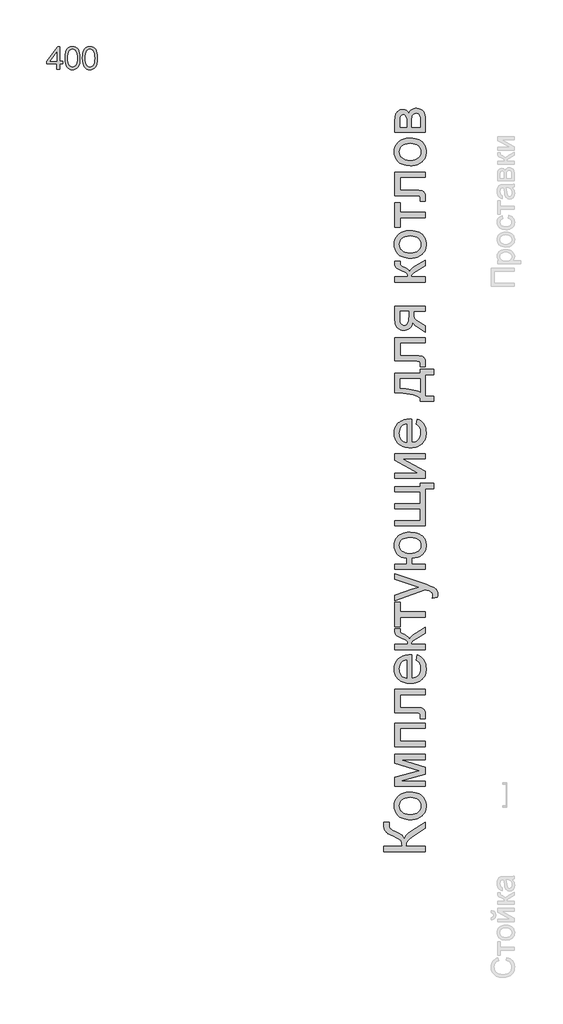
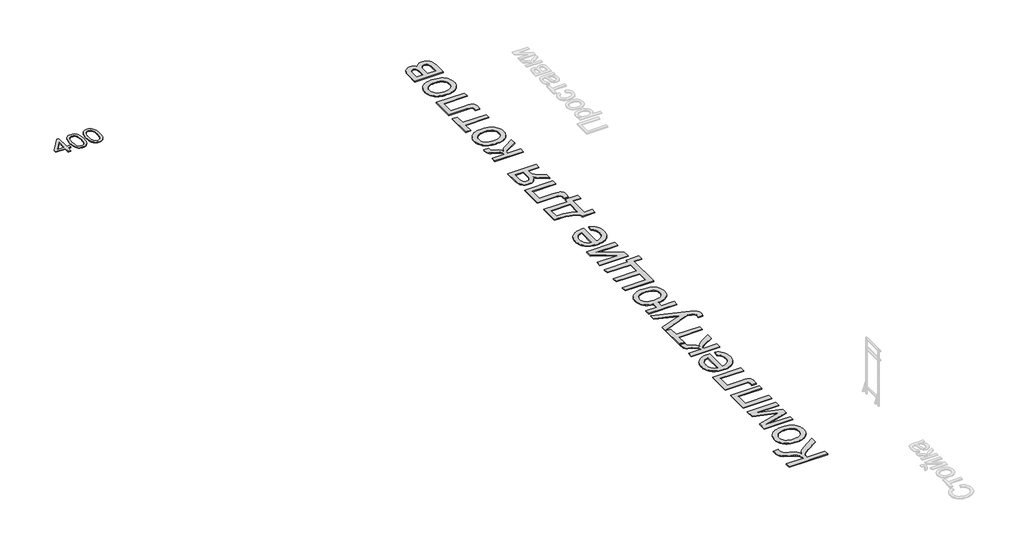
# One storey, part 7 of 8: 2 proxies.
"""IFC4 building model written with IfcOpenShell, lengths in millimetres."""

import ifcopenshell
import ifcopenshell.guid

model = None  # the IFC model being written
_history = None  # IfcOwnerHistory: only IFC2X3 demands one
_inside = {}  # id of a spatial element -> (the spatial element, [elements in it])
_under = {}  # id of a project, library or spatial element -> (it, [spatial elements below it])
_declared = {}  # id of a project -> (the project, [libraries it declares])
_typed = {}  # id of a type object -> (the type object, [elements of that type])
_made_of = {}  # id of a material, layer set ... -> (it, [elements and type objects made of it])


def new_model(schema):
    """Start an empty IFC model of exactly this schema.

    Asked for "IFC4X3", IfcOpenShell would pick the latest addendum, in which some entities
    have other attributes; the version numbers below select the first issue.
    IFC2X3 requires an IfcOwnerHistory on every rooted entity: one is made here for all.
    """
    global model, _history
    if schema == "IFC4X3":
        model = ifcopenshell.file(schema_version=(4, 3, 0, 0))
    else:
        model = ifcopenshell.file(schema=schema)
    _inside.clear()
    _under.clear()
    _declared.clear()
    _typed.clear()
    _made_of.clear()
    _history = None
    if model.schema == "IFC2X3":
        org = make("IfcOrganization", Name="unknown")
        user = make(
            "IfcPersonAndOrganization",
            ThePerson=make("IfcPerson", FamilyName="unknown"),
            TheOrganization=org,
        )
        app = make(
            "IfcApplication",
            ApplicationDeveloper=org,
            Version="unknown",
            ApplicationFullName="unknown",
            ApplicationIdentifier="unknown",
        )
        _history = make(
            "IfcOwnerHistory",
            OwningUser=user,
            OwningApplication=app,
            ChangeAction="ADDED",
            CreationDate=0,
        )
    return model


def make(cls, **values):
    """One entity of the class cls with the attributes given. An attribute that is None is left unset."""
    return model.create_entity(
        cls, **{name: value for name, value in values.items() if value is not None}
    )


def rooted(cls, **values):
    """An entity with a GlobalId (a new one), such as an element, a storey or a relation."""
    return make(cls, GlobalId=ifcopenshell.guid.new(), OwnerHistory=_history, **values)


def si_unit(unit_type, name, prefix=None):
    """IfcSIUnit, for example si_unit("LENGTHUNIT", "METRE", prefix="MILLI")."""
    return make("IfcSIUnit", UnitType=unit_type, Prefix=prefix, Name=name)


def assignment(units):
    """IfcUnitAssignment: the units of a project."""
    return None if units is None else make("IfcUnitAssignment", Units=units)


def point(xyz):
    """IfcCartesianPoint."""
    return None if xyz is None else make("IfcCartesianPoint", Coordinates=xyz)


def direction(xyz):
    """IfcDirection."""
    return None if xyz is None else make("IfcDirection", DirectionRatios=xyz)


def frame(location, z_axis=None, x_axis=None):
    """IfcAxis2Placement3D, a coordinate frame: its origin and axes. An axis left out is left unset."""
    return make(
        "IfcAxis2Placement3D",
        Location=point(location),
        Axis=direction(z_axis),
        RefDirection=direction(x_axis),
    )


def origin():
    """The frame at (0, 0, 0) with its axes left unset."""
    return frame((0.0, 0.0, 0.0))


def origin_with_axes():
    """The frame at (0, 0, 0) with the z axis (0, 0, 1) and the x axis (1, 0, 0) written out."""
    return frame((0.0, 0.0, 0.0), z_axis=(0.0, 0.0, 1.0), x_axis=(1.0, 0.0, 0.0))


def place(relative_to, where):
    """IfcLocalPlacement: puts the frame where relative to a parent placement (None: the world)."""
    return make(
        "IfcLocalPlacement", PlacementRelTo=relative_to, RelativePlacement=where
    )


def context(
    kind, dimensions, precision=None, world=None, true_north=None, identifier=None
):
    """IfcGeometricRepresentationContext, for example the 3D "Model" context."""
    return make(
        "IfcGeometricRepresentationContext",
        ContextIdentifier=identifier,
        ContextType=kind,
        CoordinateSpaceDimension=dimensions,
        Precision=precision,
        WorldCoordinateSystem=world,
        TrueNorth=true_north,
    )


def project(units=None, contexts=None):
    """IfcProject with its units and contexts."""
    return rooted(
        "IfcProject",
        Name="project",
        RepresentationContexts=contexts,
        UnitsInContext=assignment(units),
    )


def spatial(cls, under=None, at=None, **own):
    """A site, building, storey or space (cls), placed at a placement, below another one or the project."""
    s = rooted(cls, ObjectPlacement=at, **own)
    if under is not None:
        _under.setdefault(under.id(), (under, []))[1].append(s)
    return s


def polyline(points):
    """IfcPolyline through the points."""
    return make("IfcPolyline", Points=[point(p) for p in points])


def outline(outer, holes=None, kind="AREA"):
    """IfcArbitraryClosedProfileDef: a profile drawn as a closed curve; with holes, ...WithVoids."""
    if holes is None:
        return make("IfcArbitraryClosedProfileDef", ProfileType=kind, OuterCurve=outer)
    return make(
        "IfcArbitraryProfileDefWithVoids",
        ProfileType=kind,
        OuterCurve=outer,
        InnerCurves=holes,
    )


def extrude(swept, where, along, depth):
    """IfcExtrudedAreaSolid: the profile swept, set in the frame where, extruded along a direction by depth."""
    return make(
        "IfcExtrudedAreaSolid",
        SweptArea=swept,
        Position=where,
        ExtrudedDirection=direction(along),
        Depth=depth,
    )


def shape(context_of_items, identifier, shape_type, items):
    """IfcShapeRepresentation: the items that make up one representation, for example the "Body"."""
    return make(
        "IfcShapeRepresentation",
        ContextOfItems=context_of_items,
        RepresentationIdentifier=identifier,
        RepresentationType=shape_type,
        Items=items,
    )


def made_of(thing, what):
    """Note that an element or type object is made of a material, layer set ...; save() writes the relation."""
    if what is not None:
        _made_of.setdefault(what.id(), (what, []))[1].append(thing)
    return thing


def element(
    cls,
    number,
    at=None,
    inside=None,
    cuts=None,
    type_object=None,
    material=None,
    context=None,
    identifier="Body",
    shape_type=None,
    held_by="IfcProductDefinitionShape",
    body=None,
    shapes=None,
    **own,
):
    """One element of the class cls, such as IfcWall. Its Tag is "e" and its number.

    at: its placement. inside: the storey or other place that contains it. cuts: it is an
    opening in that element (IfcRelVoidsElement). A single representation is given by context,
    identifier, shape_type and body (its items); several are given by shapes. held_by: the class
    of the entity that holds the representations. save() writes the other relations.
    """
    e = rooted(cls, Tag="e%d" % number, ObjectPlacement=at, **own)
    if body is not None:
        shapes = [shape(context, identifier, shape_type, body)]
    if shapes is not None:
        e.Representation = make(held_by, Representations=shapes)
    if inside is not None:
        _inside.setdefault(inside.id(), (inside, []))[1].append(e)
    if cuts is not None:
        rooted(
            "IfcRelVoidsElement", RelatingBuildingElement=cuts, RelatedOpeningElement=e
        )
    if type_object is not None:
        _typed.setdefault(type_object.id(), (type_object, []))[1].append(e)
    return made_of(e, material)


def aggregate(whole, parts):
    """IfcRelAggregates: a whole, such as a stair, and the parts it consists of."""
    return rooted("IfcRelAggregates", RelatingObject=whole, RelatedObjects=parts)


def save(model, path):
    """Write the relations noted so far, then the file.

    IfcRelAggregates (storeys below a building ...), IfcRelContainedInSpatialStructure (elements
    in a storey), IfcRelDefinesByType, IfcRelAssociatesMaterial and IfcRelDeclares: one each for
    every whole, place, type object, material and project.
    """
    for whole, parts in _under.values():
        aggregate(whole, parts)
    for where, things in _inside.values():
        rooted(
            "IfcRelContainedInSpatialStructure",
            RelatedElements=things,
            RelatingStructure=where,
        )
    for kind, things in _typed.values():
        rooted("IfcRelDefinesByType", RelatedObjects=things, RelatingType=kind)
    for what, things in _made_of.values():
        rooted("IfcRelAssociatesMaterial", RelatedObjects=things, RelatingMaterial=what)
    for by, libraries in _declared.values():
        rooted("IfcRelDeclares", RelatingContext=by, RelatedDefinitions=libraries)
    model.write(path)


model = new_model("IFC4")

# Units and contexts
model_context = context("Model", 3, world=origin())
ifc_project = project(units=[si_unit("LENGTHUNIT", "METRE", prefix="MILLI")], contexts=[model_context])

# Site, building, storey
site = spatial("IfcSite", under=ifc_project)
building = spatial("IfcBuilding", under=site)
storey = spatial("IfcBuildingStorey", under=building, Name="Этаж 01", Elevation=0.0)

# Proxies
placement = place(None, origin())
element("IfcBuildingElementProxy", 1, Name="1100 мм Arial", ObjectType="1100 мм Arial", at=placement, inside=storey, context=model_context, shape_type="SweptSolid", body=[
    extrude(outline(polyline([(21849.068676, -24412.8747268), (21849.068676, -24274.8503805), (22332.153888, -24274.8503805), (22329.8708925, -24224.0600495), (22323.0219061, -24181.4076285), (22311.6069287, -24146.8931176), (22295.6259604, -24120.5165167), (22270.3782208, -24097.0547367), (22231.1629295, -24071.2846881), (22177.9800866, -24043.2063711), (22110.8296921, -24012.8197856), (22017.7913083, -23970.8665846), (21956.4958283, -23936.6637742), (21934.6852184, -23919.8993425), (21914.6774168, -23899.9336625), (21896.4724233, -23876.7667343), (21880.0702381, -23850.3985578), (21866.5070547, -23821.7136885), (21856.8190665, -23791.5966817), (21851.0062736, -23760.0475376), (21849.068676, -23727.0662562), (21850.6861488, -23636.4877789), (21988.7104951, -23636.4877789), (21987.9017587, -23666.9501835), (21987.0930223, -23697.412588), (21989.1654093, -23731.3458196), (21995.3825704, -23760.6288169), (22005.7445056, -23785.2615799), (22020.2512148, -23805.2441086), (22041.6658809, -23823.8113485), (22072.4821076, -23843.6590877), (22162.3192431, -23887.1960642), (22224.5919462, -23915.0384997), (22274.1944457, -23940.6063642), (22311.1267415, -23963.8996575), (22335.3888336, -23984.9183797), (22367.6035004, -24028.6238428), (22392.5395395, -24080.2144859), (22401.7978864, -24053.437729), (22415.2852508, -24026.7536399), (22433.0016327, -24000.1622184), (22454.947032, -23973.6634647), (22511.5248829, -23920.9439604), (22585.0188036, -23868.5951269), (22953.2634463, -23636.4877789), (22953.2634463, -23796.6175869), (22642.1695095, -23992.8709543), (22542.3916557, -24068.6562948), (22506.4281587, -24101.5196356), (22479.7482817, -24131.03009), (22460.4649731, -24160.8943666), (22446.6911812, -24194.8191738), (22438.4269061, -24232.8045118), (22435.6721477, -24274.8503805), (22953.2634463, -24274.8503805), (22953.2634463, -24412.8747268), (21849.068676, -24412.8747268)])), origin_with_axes(), (0.0, 0.0, 1.0), 20.0),
    extrude(outline(polyline([(22547.8169291, -23567.4756058), (22493.4925884, -23565.609615), (22442.7991373, -23560.0116427), (22395.7365756, -23550.6816889), (22352.3049034, -23537.6197535), (22312.5041207, -23520.8258366), (22276.3342274, -23500.2999382), (22243.7952237, -23476.0420583), (22214.8871094, -23448.0521968), (22175.6128478, -23395.4506332), (22147.5598038, -23337.3900988), (22130.7279774, -23273.8705938), (22125.1173685, -23204.892118), (22126.825403, -23165.9063899), (22131.9495063, -23128.7445309), (22140.4896785, -23093.406541), (22152.4459195, -23059.8924202), (22167.8182295, -23028.2021685), (22186.6066083, -22998.3357858), (22208.8110559, -22970.2932722), (22234.4315725, -22944.0746277), (22263.0637897, -22920.3495871), (22294.3033394, -22899.7878852), (22328.1502216, -22882.3895221), (22364.6044362, -22868.1544977), (22403.6659833, -22857.0828121), (22445.3348629, -22849.1744653), (22489.6110749, -22844.4294571), (22536.4946194, -22842.8477878), (22610.3760596, -22845.6446678), (22675.9342544, -22854.035308), (22733.1692036, -22868.0197083), (22782.0809074, -22887.5978688), (22824.3289602, -22912.5254836), (22861.5729565, -22942.5582469), (22893.8128962, -22977.6961588), (22921.0487795, -23017.9392192), (22942.6909027, -23061.7205014), (22958.149562, -23107.4730786), (22967.4247577, -23155.1969508), (22970.5164896, -23204.892118), (22968.8147734, -23244.4928227), (22963.7096248, -23282.1517176), (22955.2010439, -23317.8688027), (22943.2890306, -23351.644078), (22927.973585, -23383.4775434), (22909.254707, -23413.3691991), (22887.1323966, -23441.319045), (22861.6066538, -23467.3270811), (22832.8796628, -23490.7993916), (22801.1536076, -23511.1420606), (22766.4284883, -23528.3550883), (22728.7043048, -23542.4384746), (22687.9810571, -23553.3922195), (22644.2587452, -23561.216323), (22597.5373692, -23565.9107851), (22547.8169291, -23567.4756058)]), holes=[polyline([(22547.5473503, -23429.4512595), (22614.4955607, -23425.4581235), (22672.4634273, -23413.4787155), (22721.4509501, -23393.5130355), (22761.4581291, -23365.5610836), (22792.5355103, -23331.5604573), (22814.7336397, -23293.4487542), (22828.0525174, -23251.2259745), (22832.4921433, -23204.892118), (22828.0272444, -23158.7941429), (22814.6325477, -23116.7398499), (22792.3080532, -23078.7292389), (22761.0537609, -23044.76231), (22720.6506381, -23016.810358), (22670.8796519, -22996.844678), (22611.7408023, -22984.8652701), (22543.2340894, -22980.8721341), (22478.408812, -22984.8905431), (22421.9573262, -22996.9457701), (22373.8796318, -23017.0378151), (22334.175729, -23045.1666782), (22303.0983478, -23079.2599722), (22280.9002184, -23117.2453102), (22267.5813407, -23159.1226921), (22263.1417148, -23204.892118), (22267.564492, -23251.2259745), (22280.8328237, -23293.4487542), (22302.9467097, -23331.5604573), (22333.9061502, -23365.5610836), (22373.7953884, -23393.5130355), (22422.6986679, -23413.4787155), (22480.6159885, -23425.4581235), (22547.5473503, -23429.4512595)])]), origin_with_axes(), (0.0, 0.0, 1.0), 20.0),
    extrude(outline(polyline([(22142.3704118, -22687.5703982), (22142.3704118, -22450.0714742), (22791.5161655, -22267.0274681), (22142.3704118, -22069.6957855), (22142.3704118, -21842.1712772), (22953.2634463, -21842.1712772), (22953.2634463, -21980.1956235), (22300.3435894, -21980.1956235), (22953.2634463, -22178.6056213), (22953.2634463, -22359.7625758), (22269.0724485, -22549.5460519), (22953.2634463, -22549.5460519), (22953.2634463, -22687.5703982), (22142.3704118, -22687.5703982)])), origin_with_axes(), (0.0, 0.0, 1.0), 20.0),
    extrude(outline(polyline([(22142.3704118, -21635.1347578), (22142.3704118, -21014.0251995), (22953.2634463, -21014.0251995), (22953.2634463, -21152.0495458), (22280.3947581, -21152.0495458), (22280.3947581, -21497.1104115), (22953.2634463, -21497.1104115), (22953.2634463, -21635.1347578), (22142.3704118, -21635.1347578)])), origin_with_axes(), (0.0, 0.0, 1.0), 20.0),
    extrude(outline(polyline([(22142.3704118, -20737.9765069), (22142.3704118, -20116.8669486), (22952.4547099, -20116.8669486), (22952.4547099, -20254.8912949), (22280.3947581, -20254.8912949), (22280.3947581, -20599.9521606), (22667.240338, -20599.9521606), (22779.5199088, -20602.2772778), (22845.7015045, -20609.2526293), (22866.5854373, -20615.9331289), (22886.1046274, -20626.6741593), (22904.2590748, -20641.4757204), (22921.0487795, -20660.3378121), (22935.1426962, -20683.5552864), (22945.2097796, -20711.422995), (22951.2500296, -20743.9409379), (22953.2634463, -20781.1091151), (22946.2543974, -20893.2538965), (22815.2391, -20893.2538965), (22815.2391, -20831.520351), (22813.1161669, -20794.0825949), (22806.7473677, -20769.1128585), (22795.7620316, -20753.5109853), (22779.7894876, -20744.1768193), (22740.46468, -20739.526585), (22659.4225528, -20737.9765069), (22142.3704118, -20737.9765069)])), origin_with_axes(), (0.0, 0.0, 1.0), 20.0),
    extrude(outline(polyline([(22711.7208403, -19342.0974736), (22728.9738836, -19206.7689153), (22783.1760713, -19227.5180586), (22830.9420652, -19255.528981), (22872.2718651, -19290.8016823), (22907.1654712, -19333.3361625), (22934.8815418, -19382.6943562), (22954.678735, -19438.4381977), (22966.5570509, -19500.5676871), (22970.5164896, -19569.0828243), (22968.8084551, -19613.0705028), (22963.6843518, -19654.7246397), (22955.1441796, -19694.0452352), (22943.1879386, -19731.0322892), (22927.8156286, -19765.6858017), (22909.0272498, -19798.0057726), (22886.8228022, -19827.9922021), (22861.2022856, -19855.6450901), (22832.4984615, -19880.475825), (22801.0440912, -19901.9957953), (22766.8391747, -19920.2050009), (22729.883712, -19935.1034418), (22690.1777031, -19946.6911181), (22647.721148, -19954.9680297), (22602.5140466, -19959.9341767), (22554.5563991, -19961.589559), (22504.9665361, -19959.917328), (22458.2325236, -19954.900635), (22414.3543615, -19946.53948), (22373.3320499, -19934.833863), (22335.1655887, -19919.783784), (22299.8549778, -19901.389243), (22267.4002175, -19879.6502399), (22237.8013075, -19854.5667749), (22211.3910093, -19826.817007), (22188.5020842, -19797.0790955), (22169.1345322, -19765.3530403), (22153.2883533, -19731.6388415), (22140.9635475, -19695.936499), (22132.1601147, -19658.2460128), (22126.8780551, -19618.567383), (22125.1173685, -19576.9006095), (22126.8738429, -19536.5964726), (22132.1432661, -19498.1751752), (22140.9256379, -19461.6367172), (22153.2209586, -19426.9810986), (22169.029228, -19394.2083195), (22188.3504461, -19363.3183798), (22211.184613, -19334.3112796), (22237.5317287, -19307.1870188), (22267.063244, -19282.6406053), (22299.4506096, -19261.3670469), (22334.6938257, -19243.3663436), (22372.7928923, -19228.6384955), (22413.7478092, -19217.1835026), (22457.5585766, -19209.0013647), (22504.2251944, -19204.092082), (22553.7476627, -19202.4556545), (22590.9495373, -19203.2643909), (22590.9495373, -19823.5652127), (22646.0278561, -19815.5705164), (22694.2656129, -19799.6737915), (22735.6628076, -19775.8750379), (22770.2194402, -19744.1742558), (22797.4637478, -19706.3237072), (22816.9239675, -19664.0756544), (22828.6000993, -19617.4300974), (22832.4921433, -19566.3870363), (22830.689335, -19528.2079385), (22825.2809103, -19492.9268129), (22816.2668692, -19460.5436594), (22803.6472115, -19431.058478), (22787.0849639, -19404.4712687), (22766.2431528, -19380.7820315), (22741.1217783, -19359.9907665), (22711.7208403, -19342.0974736)]), holes=[polyline([(22452.925191, -19823.5652127), (22452.925191, -19340.4800007), (22413.8699621, -19347.573293), (22380.0041252, -19359.1483327), (22351.3276802, -19375.2051201), (22327.8406272, -19395.743655), (22299.534853, -19433.3835952), (22279.3164429, -19476.2129272), (22267.1853969, -19524.2316512), (22263.1417148, -19577.4397671), (22266.3682361, -19625.9723757), (22276.0478, -19670.4781509), (22292.1804063, -19710.9570928), (22314.7660553, -19747.4092014), (22342.7601289, -19777.997971), (22375.1180094, -19800.8868961), (22411.8396968, -19816.0759767), (22452.925191, -19823.5652127)])]), origin_with_axes(), (0.0, 0.0, 1.0), 20.0),
    extrude(outline(polyline([(22142.3704118, -19064.4313082), (22142.3704118, -18926.4069619), (22487.4312776, -18926.4069619), (22485.8811994, -18895.860314), (22481.2309651, -18870.2671765), (22473.4805746, -18849.6275495), (22462.6300278, -18833.941433), (22444.2986693, -18819.2999344), (22414.1058436, -18801.794161), (22318.1357903, -18758.1897898), (22239.6546618, -18723.0434536), (22193.4555947, -18695.2431397), (22168.2836741, -18669.2961801), (22152.8839851, -18639.7099067), (22144.9988051, -18598.7676262), (22142.3704118, -18538.7526456), (22142.3704118, -18512.333923), (22281.2034945, -18512.333923), (22280.3947581, -18549.5357976), (22284.0340719, -18592.6684058), (22288.5832142, -18607.1582664), (22294.9520134, -18616.9304979), (22325.3470232, -18636.6097504), (22385.8000694, -18664.376367), (22446.3542077, -18693.5245749), (22484.0615425, -18720.0443895), (22509.2334631, -18752.1579642), (22532.1813586, -18798.0874524), (22540.0370533, -18776.1673262), (22551.6078809, -18754.3482919), (22585.8949347, -18711.0134996), (22635.04252, -18668.0830755), (22699.0506366, -18625.5570196), (22953.2634463, -18477.8278365), (22953.2634463, -18634.7226988), (22704.4422126, -18779.4865152), (22638.2269196, -18818.5754413), (22615.3042971, -18836.0980634), (22599.1716907, -18852.2727915), (22588.0262921, -18868.531763), (22580.0652932, -18886.3071152), (22575.2886938, -18905.5988482), (22573.696494, -18926.4069619), (22953.2634463, -18926.4069619), (22953.2634463, -19064.4313082), (22142.3704118, -19064.4313082)])), origin_with_axes(), (0.0, 0.0, 1.0), 20.0),
    extrude(outline(polyline([(22142.3704118, -18460.5747932), (22142.3704118, -17804.9591483), (22280.3947581, -17804.9591483), (22280.3947581, -18063.7547976), (22953.2634463, -18063.7547976), (22953.2634463, -18201.7791439), (22280.3947581, -18201.7791439), (22280.3947581, -18460.5747932), (22142.3704118, -18460.5747932)])), origin_with_axes(), (0.0, 0.0, 1.0), 20.0),
    extrude(outline(polyline([(23263.8182254, -17684.1878453), (23130.9158764, -17701.4408886), (23140.0141609, -17663.8346458), (23143.0469224, -17631.3504002), (23139.2391218, -17594.4854992), (23127.8157201, -17565.8427515), (23109.5854537, -17543.5351057), (23085.3570589, -17525.6755101), (23049.7052624, -17510.4443078), (22983.7258508, -17487.9344779), (22950.2980795, -17477.1513259), (22142.3704118, -17770.4530617), (22142.3704118, -17624.880509), (22592.5670101, -17469.3335406), (22680.4496993, -17440.690793), (22772.6456494, -17415.1482016), (22613.5941566, -17360.9628625), (22142.3704118, -17201.1026333), (22142.3704118, -17056.6083958), (22972.67312, -17338.8574008), (23083.0656391, -17380.7769044), (23152.7517593, -17412.1828348), (23183.7027754, -17430.3288578), (23210.2394386, -17449.7216828), (23232.361749, -17470.3613098), (23250.0697065, -17492.2477387), (23263.63289, -17515.8527325), (23273.3208782, -17541.6480541), (23279.1336711, -17569.6337034), (23281.0712687, -17599.8096805), (23276.7580079, -17639.7747378), (23263.8182254, -17684.1878453)])), origin_with_axes(), (0.0, 0.0, 1.0), 20.0),
    extrude(outline(polyline([(22142.3704118, -16942.306984), (22142.3704118, -16804.2826377), (22452.925191, -16804.2826377), (22452.925191, -16649.0052482), (22377.8474948, -16635.5347324), (22312.2050567, -16613.1849649), (22255.9978766, -16581.9559457), (22231.4325083, -16563.0117166), (22209.2259546, -16541.8476746), (22172.4284482, -16493.989013), (22146.1445151, -16439.5088222), (22130.3741552, -16378.407102), (22125.1173685, -16310.6838525), (22128.2091004, -16253.3562355), (22137.4842961, -16202.4142664), (22152.9429555, -16157.8579451), (22174.5850786, -16119.6872717), (22201.6524751, -16086.2426517), (22233.3869546, -16055.8644905), (22269.7885172, -16028.5527882), (22310.8571627, -16004.3075447), (22358.0334529, -15984.4345325), (22412.7579496, -15970.2395237), (22475.0306527, -15961.7225185), (22544.8515622, -15958.8835167), (22643.2478247, -15964.75528), (22687.6946296, -15972.0949841), (22728.9738836, -15982.3705698), (22767.0855866, -15995.5820371), (22802.0297387, -16011.7293861), (22833.8063399, -16030.8126167), (22862.4153902, -16052.831729), (22887.7515854, -16077.365506), (22909.7096212, -16103.9927309), (22928.2894976, -16132.7134036), (22943.4912147, -16163.5275243), (22955.3147725, -16196.4350928), (22963.7601708, -16231.4361092), (22968.8274099, -16268.5305735), (22970.5164896, -16307.7184857), (22968.9327141, -16344.1937611), (22964.1813877, -16378.8114702), (22956.2625104, -16411.5716128), (22945.1760822, -16442.474189), (22930.9221031, -16471.5191987), (22913.5005731, -16498.7066421), (22892.9114921, -16524.036519), (22869.1548603, -16547.5088294), (22842.6350457, -16568.8202973), (22813.7564166, -16587.6676465), (22782.518973, -16604.0508769), (22748.9227149, -16617.9699886), (22674.6537551, -16638.4158559), (22590.9495373, -16649.0052482), (22590.9495373, -16804.2826377), (22953.2634463, -16804.2826377), (22953.2634463, -16942.306984), (22142.3704118, -16942.306984)]), holes=[polyline([(22263.1417148, -16301.787752), (22267.6066137, -16348.5175524), (22281.0013104, -16389.7715333), (22303.3258049, -16425.5496949), (22334.5800972, -16455.852037), (22373.8880562, -16479.9709154), (22420.3735507, -16497.1986856), (22474.0365809, -16507.5353478), (22534.8771466, -16510.9809019), (22606.7114728, -16507.5100748), (22668.2849559, -16497.0975936), (22719.5975959, -16479.7434583), (22760.6493927, -16455.4476688), (22792.0805961, -16425.3390864), (22814.5314556, -16390.5465724), (22828.0019714, -16351.0701266), (22832.4921433, -16306.9097493), (22828.3389449, -16262.8925856), (22815.8793496, -16223.0370447), (22795.1133576, -16187.3431265), (22766.0409687, -16155.8108311), (22727.7186573, -16130.0407826), (22679.2028974, -16111.633605), (22620.493689, -16100.5892985), (22551.5910323, -16096.907863), (22483.9857235, -16100.0922626), (22425.3944559, -16109.6454614), (22375.8172295, -16125.5674593), (22335.2540442, -16147.8582565), (22303.7049001, -16176.5852475), (22281.1697972, -16211.8158271), (22267.6487354, -16253.5499953), (22263.1417148, -16301.787752)])]), origin_with_axes(), (0.0, 0.0, 1.0), 20.0),
    extrude(outline(polyline([(22142.3704118, -15786.3530839), (22142.3704118, -15648.3287376), (22815.2391, -15648.3287376), (22815.2391, -15337.7739584), (22142.3704118, -15337.7739584), (22142.3704118, -15199.7496121), (22815.2391, -15199.7496121), (22815.2391, -14889.194833), (22142.3704118, -14889.194833), (22142.3704118, -14751.1704867), (22815.2391, -14751.1704867), (22815.2391, -14664.9052703), (23177.553009, -14664.9052703), (23177.553009, -14802.9296166), (22953.2634463, -14802.9296166), (22953.2634463, -15786.3530839), (22142.3704118, -15786.3530839)])), origin_with_axes(), (0.0, 0.0, 1.0), 20.0),
    extrude(outline(polyline([(22142.3704118, -14526.880924), (22142.3704118, -14388.8565777), (22760.7841821, -14388.8565777), (22142.3704118, -14049.7264456), (22142.3704118, -13871.2652791), (22953.2634463, -13871.2652791), (22953.2634463, -14009.2896254), (22338.6237792, -14009.2896254), (22953.2634463, -14346.2631271), (22953.2634463, -14526.880924), (22142.3704118, -14526.880924)])), origin_with_axes(), (0.0, 0.0, 1.0), 20.0),
    extrude(outline(polyline([(22711.7208403, -13096.4958041), (22728.9738836, -12961.1672458), (22783.1760713, -12981.9163892), (22830.9420652, -13009.9273115), (22872.2718651, -13045.2000128), (22907.1654712, -13087.734493), (22934.8815418, -13137.0926867), (22954.678735, -13192.8365282), (22966.5570509, -13254.9660176), (22970.5164896, -13323.4811548), (22968.8084551, -13367.4688333), (22963.6843518, -13409.1229703), (22955.1441796, -13448.4435657), (22943.1879386, -13485.4306197), (22927.8156286, -13520.0841322), (22909.0272498, -13552.4041032), (22886.8228022, -13582.3905327), (22861.2022856, -13610.0434206), (22832.4984615, -13634.8741555), (22801.0440912, -13656.3941258), (22766.8391747, -13674.6033314), (22729.883712, -13689.5017723), (22690.1777031, -13701.0894486), (22647.721148, -13709.3663603), (22602.5140466, -13714.3325072), (22554.5563991, -13715.9878896), (22504.9665361, -13714.3156586), (22458.2325236, -13709.2989656), (22414.3543615, -13700.9378105), (22373.3320499, -13689.2321935), (22335.1655887, -13674.1821145), (22299.8549778, -13655.7875735), (22267.4002175, -13634.0485705), (22237.8013075, -13608.9651054), (22211.3910093, -13581.2153376), (22188.5020842, -13551.477426), (22169.1345322, -13519.7513709), (22153.2883533, -13486.037172), (22140.9635475, -13450.3348295), (22132.1601147, -13412.6443434), (22126.8780551, -13372.9657135), (22125.1173685, -13331.29894), (22126.8738429, -13290.9948032), (22132.1432661, -13252.5735057), (22140.9256379, -13216.0350477), (22153.2209586, -13181.3794292), (22169.029228, -13148.60665), (22188.3504461, -13117.7167103), (22211.184613, -13088.7096101), (22237.5317287, -13061.5853493), (22267.063244, -13037.0389358), (22299.4506096, -13015.7653774), (22334.6938257, -12997.7646742), (22372.7928923, -12983.0368261), (22413.7478092, -12971.5818331), (22457.5585766, -12963.3996953), (22504.2251944, -12958.4904126), (22553.7476627, -12956.853985), (22590.9495373, -12957.6627214), (22590.9495373, -13577.9635433), (22646.0278561, -13569.9688469), (22694.2656129, -13554.072122), (22735.6628076, -13530.2733684), (22770.2194402, -13498.5725863), (22797.4637478, -13460.7220377), (22816.9239675, -13418.4739849), (22828.6000993, -13371.828428), (22832.4921433, -13320.7853668), (22830.689335, -13282.6062691), (22825.2809103, -13247.3251434), (22816.2668692, -13214.9419899), (22803.6472115, -13185.4568085), (22787.0849639, -13158.8695992), (22766.2431528, -13135.1803621), (22741.1217783, -13114.389097), (22711.7208403, -13096.4958041)]), holes=[polyline([(22452.925191, -13577.9635433), (22452.925191, -13094.8783313), (22413.8699621, -13101.9716235), (22380.0041252, -13113.5466633), (22351.3276802, -13129.6034506), (22327.8406272, -13150.1419855), (22299.534853, -13187.7819257), (22279.3164429, -13230.6112577), (22267.1853969, -13278.6299817), (22263.1417148, -13331.8380976), (22266.3682361, -13380.3707062), (22276.0478, -13424.8764815), (22292.1804063, -13465.3554234), (22314.7660553, -13501.8075319), (22342.7601289, -13532.3963015), (22375.1180094, -13555.2852266), (22411.8396968, -13570.4743072), (22452.925191, -13577.9635433)])]), origin_with_axes(), (0.0, 0.0, 1.0), 20.0),
    extrude(outline(polyline([(22142.3704118, -12266.7322536), (22142.3704118, -11749.140955), (22815.2391, -11749.140955), (22815.2391, -11645.6226953), (23177.553009, -11645.6226953), (23177.553009, -11783.6470415), (22953.2634463, -11783.6470415), (22953.2634463, -12352.99747), (23177.553009, -12352.99747), (23177.553009, -12491.0218163), (22815.2391, -12491.0218163), (22815.2391, -12404.7565998), (22763.151421, -12371.0508253), (22701.9149114, -12342.0458312), (22631.5295712, -12317.7416174), (22551.9954005, -12298.1381839), (22463.3123992, -12283.2355308), (22365.4805673, -12273.033658), (22258.4999049, -12267.5325656), (22142.3704118, -12266.7322536)]), holes=[polyline([(22280.3947581, -12145.9609505), (22449.3869692, -12157.2832602), (22525.0627934, -12166.5837289), (22594.8584299, -12178.3104067), (22658.7738788, -12192.4632938), (22716.8091401, -12209.0423901), (22768.9642139, -12228.0476956), (22815.2391, -12249.4792103), (22815.2391, -11887.1653013), (22280.3947581, -11887.1653013), (22280.3947581, -12145.9609505)])]), origin_with_axes(), (0.0, 0.0, 1.0), 20.0),
    extrude(outline(polyline([(22142.3704118, -11421.3331325), (22142.3704118, -10800.2235743), (22952.4547099, -10800.2235743), (22952.4547099, -10938.2479205), (22280.3947581, -10938.2479205), (22280.3947581, -11283.3087863), (22667.240338, -11283.3087863), (22779.5199088, -11285.6339034), (22845.7015045, -11292.6092549), (22866.5854373, -11299.2897546), (22886.1046274, -11310.0307849), (22904.2590748, -11324.832346), (22921.0487795, -11343.6944378), (22935.1426962, -11366.911912), (22945.2097796, -11394.7796206), (22951.2500296, -11427.2975635), (22953.2634463, -11464.4657408), (22946.2543974, -11576.6105221), (22815.2391, -11576.6105221), (22815.2391, -11514.8769766), (22813.1161669, -11477.4392206), (22806.7473677, -11452.4694841), (22795.7620316, -11436.867611), (22779.7894876, -11427.533445), (22740.46468, -11422.8832107), (22659.4225528, -11421.3331325), (22142.3704118, -11421.3331325)])), origin_with_axes(), (0.0, 0.0, 1.0), 20.0),
    extrude(outline(polyline([(22142.3704118, -9972.0774965), (22953.2634463, -9972.0774965), (22953.2634463, -10110.1018428), (22642.7086671, -10110.1018428), (22642.7086671, -10185.3143284), (22647.0893226, -10245.2956117), (22652.565142, -10268.7152701), (22660.2312892, -10287.7542729), (22674.1651435, -10306.4057562), (22698.4440843, -10328.662856), (22778.0372254, -10383.993905), (22953.2634463, -10493.9820559), (22953.2634463, -10653.5727063), (22731.6696716, -10515.0092024), (22686.3804329, -10483.8054562), (22652.1439252, -10453.8148145), (22628.9601483, -10425.0372775), (22616.8291022, -10397.4728451), (22605.6247333, -10448.1536597), (22587.9167758, -10491.8254255), (22563.7052297, -10528.4881425), (22532.990095, -10558.1418106), (22497.7426667, -10581.0223114), (22459.9342398, -10597.3655262), (22419.5648143, -10607.1714551), (22376.6343902, -10610.4400981), (22326.9307987, -10605.9751992), (22282.1470203, -10592.5805025), (22242.2830551, -10570.256008), (22207.338903, -10539.0017158), (22178.9151881, -10499.2893886), (22158.6125346, -10451.5907894), (22146.4309425, -10395.9059183), (22142.3704118, -10332.2347751), (22142.3704118, -9972.0774965)]), holes=[polyline([(22280.3947581, -10110.1018428), (22280.3947581, -10292.0675337), (22282.3913261, -10344.1383641), (22288.3810301, -10386.0494433), (22298.3638701, -10417.8007715), (22312.3398461, -10439.3923487), (22328.9947614, -10453.8400875), (22347.0144194, -10464.159901), (22366.3988201, -10470.3517891), (22387.1479635, -10472.4157518), (22415.4621619, -10469.374566), (22439.7495271, -10460.2510084), (22460.0100589, -10445.0450791), (22476.2437573, -10423.7567782), (22488.6865038, -10394.7349353), (22497.57418, -10356.3283805), (22502.9067856, -10308.5371136), (22504.6843208, -10251.3611347), (22504.6843208, -10110.1018428), (22280.3947581, -10110.1018428)])]), origin_with_axes(), (0.0, 0.0, 1.0), 20.0),
    extrude(outline(polyline([(22142.3704118, -9333.714895), (22142.3704118, -9195.6905487), (22487.4312776, -9195.6905487), (22485.8811994, -9165.1439007), (22481.2309651, -9139.5507633), (22473.4805746, -9118.9111363), (22462.6300278, -9103.2250198), (22444.2986693, -9088.5835212), (22414.1058436, -9071.0777478), (22318.1357903, -9027.4733766), (22239.6546618, -8992.3270404), (22193.4555947, -8964.5267265), (22168.2836741, -8938.5797669), (22152.8839851, -8908.9934934), (22144.9988051, -8868.051213), (22142.3704118, -8808.0362323), (22142.3704118, -8781.6175098), (22281.2034945, -8781.6175098), (22280.3947581, -8818.8193844), (22284.0340719, -8861.9519926), (22288.5832142, -8876.4418532), (22294.9520134, -8886.2140847), (22325.3470232, -8905.8933372), (22385.8000694, -8933.6599538), (22446.3542077, -8962.8081617), (22484.0615425, -8989.3279762), (22509.2334631, -9021.441551), (22532.1813586, -9067.3710392), (22540.0370533, -9045.4509129), (22551.6078809, -9023.6318787), (22585.8949347, -8980.2970864), (22635.04252, -8937.3666623), (22699.0506366, -8894.8406064), (22953.2634463, -8747.1114232), (22953.2634463, -8904.0062856), (22704.4422126, -9048.7701019), (22638.2269196, -9087.8590281), (22615.3042971, -9105.3816502), (22599.1716907, -9121.5563783), (22588.0262921, -9137.8153498), (22580.0652932, -9155.590702), (22575.2886938, -9174.8824349), (22573.696494, -9195.6905487), (22953.2634463, -9195.6905487), (22953.2634463, -9333.714895), (22142.3704118, -9333.714895)])), origin_with_axes(), (0.0, 0.0, 1.0), 20.0),
    extrude(outline(polyline([(22547.8169291, -8695.3522934), (22493.4925884, -8693.4863026), (22442.7991373, -8687.8883303), (22395.7365756, -8678.5583765), (22352.3049034, -8665.4964411), (22312.5041207, -8648.7025242), (22276.3342274, -8628.1766258), (22243.7952237, -8603.9187459), (22214.8871094, -8575.9288844), (22175.6128478, -8523.3273208), (22147.5598038, -8465.2667864), (22130.7279774, -8401.7472814), (22125.1173685, -8332.7688056), (22126.825403, -8293.7830775), (22131.9495063, -8256.6212185), (22140.4896785, -8221.2832286), (22152.4459195, -8187.7691078), (22167.8182295, -8156.0788561), (22186.6066083, -8126.2124734), (22208.8110559, -8098.1699598), (22234.4315725, -8071.9513153), (22263.0637897, -8048.2262747), (22294.3033394, -8027.6645728), (22328.1502216, -8010.2662097), (22364.6044362, -7996.0311854), (22403.6659833, -7984.9594997), (22445.3348629, -7977.0511529), (22489.6110749, -7972.3061447), (22536.4946194, -7970.7244754), (22610.3760596, -7973.5213554), (22675.9342544, -7981.9119956), (22733.1692036, -7995.896396), (22782.0809074, -8015.4745564), (22824.3289602, -8040.4021712), (22861.5729565, -8070.4349345), (22893.8128962, -8105.5728464), (22921.0487795, -8145.8159068), (22942.6909027, -8189.5971891), (22958.149562, -8235.3497662), (22967.4247577, -8283.0736384), (22970.5164896, -8332.7688056), (22968.8147734, -8372.3695103), (22963.7096248, -8410.0284052), (22955.2010439, -8445.7454903), (22943.2890306, -8479.5207656), (22927.973585, -8511.354231), (22909.254707, -8541.2458867), (22887.1323966, -8569.1957326), (22861.6066538, -8595.2037687), (22832.8796628, -8618.6760792), (22801.1536076, -8639.0187482), (22766.4284883, -8656.2317759), (22728.7043048, -8670.3151622), (22687.9810571, -8681.2689071), (22644.2587452, -8689.0930106), (22597.5373692, -8693.7874727), (22547.8169291, -8695.3522934)]), holes=[polyline([(22547.5473503, -8557.3279471), (22614.4955607, -8553.3348111), (22672.4634273, -8541.3554031), (22721.4509501, -8521.3897231), (22761.4581291, -8493.4377712), (22792.5355103, -8459.4371449), (22814.7336397, -8421.3254418), (22828.0525174, -8379.1026621), (22832.4921433, -8332.7688056), (22828.0272444, -8286.6708305), (22814.6325477, -8244.6165375), (22792.3080532, -8206.6059265), (22761.0537609, -8172.6389976), (22720.6506381, -8144.6870456), (22670.8796519, -8124.7213656), (22611.7408023, -8112.7419577), (22543.2340894, -8108.7488217), (22478.408812, -8112.7672307), (22421.9573262, -8124.8224577), (22373.8796318, -8144.9145027), (22334.175729, -8173.0433658), (22303.0983478, -8207.1366598), (22280.9002184, -8245.1219978), (22267.5813407, -8286.9993797), (22263.1417148, -8332.7688056), (22267.564492, -8379.1026621), (22280.8328237, -8421.3254418), (22302.9467097, -8459.4371449), (22333.9061502, -8493.4377712), (22373.7953884, -8521.3897231), (22422.6986679, -8541.3554031), (22480.6159885, -8553.3348111), (22547.5473503, -8557.3279471)])]), origin_with_axes(), (0.0, 0.0, 1.0), 20.0),
    extrude(outline(polyline([(22142.3704118, -7884.4592589), (22142.3704118, -7228.8436141), (22280.3947581, -7228.8436141), (22280.3947581, -7487.6392634), (22953.2634463, -7487.6392634), (22953.2634463, -7625.6636097), (22280.3947581, -7625.6636097), (22280.3947581, -7884.4592589), (22142.3704118, -7884.4592589)])), origin_with_axes(), (0.0, 0.0, 1.0), 20.0),
    extrude(outline(polyline([(22142.3704118, -7039.0601379), (22142.3704118, -6417.9505797), (22952.4547099, -6417.9505797), (22952.4547099, -6555.9749259), (22280.3947581, -6555.9749259), (22280.3947581, -6901.0357917), (22667.240338, -6901.0357917), (22779.5199088, -6903.3609088), (22845.7015045, -6910.3362603), (22866.5854373, -6917.01676), (22886.1046274, -6927.7577903), (22904.2590748, -6942.5593514), (22921.0487795, -6961.4214432), (22935.1426962, -6984.6389174), (22945.2097796, -7012.506626), (22951.2500296, -7045.0245689), (22953.2634463, -7082.1927462), (22946.2543974, -7194.3375275), (22815.2391, -7194.3375275), (22815.2391, -7132.603982), (22813.1161669, -7095.166226), (22806.7473677, -7070.1964895), (22795.7620316, -7054.5946164), (22779.7894876, -7045.2604504), (22740.46468, -7040.610216), (22659.4225528, -7039.0601379), (22142.3704118, -7039.0601379)])), origin_with_axes(), (0.0, 0.0, 1.0), 20.0),
    extrude(outline(polyline([(22547.8169291, -6245.4201468), (22493.4925884, -6243.554156), (22442.7991373, -6237.9561837), (22395.7365756, -6228.6262299), (22352.3049034, -6215.5642945), (22312.5041207, -6198.7703777), (22276.3342274, -6178.2444792), (22243.7952237, -6153.9865993), (22214.8871094, -6125.9967378), (22175.6128478, -6073.3951742), (22147.5598038, -6015.3346398), (22130.7279774, -5951.8151348), (22125.1173685, -5882.836659), (22126.825403, -5843.8509309), (22131.9495063, -5806.6890719), (22140.4896785, -5771.351082), (22152.4459195, -5737.8369612), (22167.8182295, -5706.1467095), (22186.6066083, -5676.2803268), (22208.8110559, -5648.2378132), (22234.4315725, -5622.0191687), (22263.0637897, -5598.2941281), (22294.3033394, -5577.7324262), (22328.1502216, -5560.3340631), (22364.6044362, -5546.0990388), (22403.6659833, -5535.0273531), (22445.3348629, -5527.1190063), (22489.6110749, -5522.3739982), (22536.4946194, -5520.7923288), (22610.3760596, -5523.5892089), (22675.9342544, -5531.979849), (22733.1692036, -5545.9642494), (22782.0809074, -5565.5424098), (22824.3289602, -5590.4700246), (22861.5729565, -5620.5027879), (22893.8128962, -5655.6406998), (22921.0487795, -5695.8837603), (22942.6909027, -5739.6650425), (22958.149562, -5785.4176197), (22967.4247577, -5833.1414918), (22970.5164896, -5882.836659), (22968.8147734, -5922.4373637), (22963.7096248, -5960.0962586), (22955.2010439, -5995.8133437), (22943.2890306, -6029.588619), (22927.973585, -6061.4220845), (22909.254707, -6091.3137401), (22887.1323966, -6119.263586), (22861.6066538, -6145.2716221), (22832.8796628, -6168.7439326), (22801.1536076, -6189.0866016), (22766.4284883, -6206.2996293), (22728.7043048, -6220.3830156), (22687.9810571, -6231.3367605), (22644.2587452, -6239.160864), (22597.5373692, -6243.8553261), (22547.8169291, -6245.4201468)]), holes=[polyline([(22547.5473503, -6107.3958005), (22614.4955607, -6103.4026645), (22672.4634273, -6091.4232565), (22721.4509501, -6071.4575766), (22761.4581291, -6043.5056246), (22792.5355103, -6009.5049983), (22814.7336397, -5971.3932952), (22828.0525174, -5929.1705155), (22832.4921433, -5882.836659), (22828.0272444, -5836.738684), (22814.6325477, -5794.6843909), (22792.3080532, -5756.67378), (22761.0537609, -5722.706851), (22720.6506381, -5694.754899), (22670.8796519, -5674.7892191), (22611.7408023, -5662.8098111), (22543.2340894, -5658.8166751), (22478.408812, -5662.8350841), (22421.9573262, -5674.8903111), (22373.8796318, -5694.9823561), (22334.175729, -5723.1112192), (22303.0983478, -5757.2045132), (22280.9002184, -5795.1898512), (22267.5813407, -5837.0672331), (22263.1417148, -5882.836659), (22267.564492, -5929.1705155), (22280.8328237, -5971.3932952), (22302.9467097, -6009.5049983), (22333.9061502, -6043.5056246), (22373.7953884, -6071.4575766), (22422.6986679, -6091.4232565), (22480.6159885, -6103.4026645), (22547.5473503, -6107.3958005)])]), origin_with_axes(), (0.0, 0.0, 1.0), 20.0),
    extrude(outline(polyline([(22142.3704118, -5365.5149392), (22142.3704118, -5061.4300513), (22146.9869488, -4963.6740385), (22152.75762, -4925.5876084), (22160.8365597, -4894.6955627), (22171.9903826, -4868.3610835), (22186.9857035, -4843.9473533), (22205.8225222, -4821.4543721), (22228.5008389, -4800.8821398), (22254.3214334, -4783.7217642), (22282.5850859, -4771.4643531), (22313.2917962, -4764.1099064), (22346.4415645, -4761.6584242), (22397.8974182, -4767.5891578), (22420.9716787, -4775.0025749), (22442.2768283, -4785.3813587), (22461.8634131, -4798.7423581), (22479.7819791, -4815.1024216), (22510.6150545, -4856.8197411), (22522.7713735, -4830.0977424), (22539.2914995, -4805.7345582), (22560.1754322, -4783.7301886), (22585.4231718, -4764.0846334), (22614.1248898, -4747.926754), (22645.3707578, -4736.3854116), (22679.1607757, -4729.4606061), (22715.4949435, -4727.1523376), (22771.988551, -4734.8184848), (22820.6980707, -4750.5382987), (22861.6235025, -4774.3117792), (22894.7648464, -4806.1389264), (22920.3579838, -4846.0702864), (22938.6387963, -4894.1564051), (22949.6072838, -4950.3972825), (22953.2634463, -5014.7929187), (22953.2634463, -5365.5149392), (22142.3704118, -5365.5149392)]), holes=[polyline([(22815.2391, -5227.4905929), (22815.2391, -5058.1951057), (22813.6805975, -5007.7670212), (22809.0050902, -4965.9317609), (22801.212578, -4932.689325), (22790.3030609, -4908.0397133), (22775.5688945, -4890.0958744), (22756.3024345, -4876.9707565), (22732.503681, -4868.6643597), (22704.1726338, -4865.1766839), (22669.6328499, -4871.0737202), (22637.7214593, -4888.764829), (22623.8297267, -4901.4518814), (22612.7517228, -4915.9248933), (22604.4874477, -4932.1838647), (22599.0369013, -4950.2287957), (22592.9713783, -4999.528019), (22590.9495373, -5071.6740458), (22590.9495373, -5227.4905929), (22815.2391, -5227.4905929)]), polyline([(22452.925191, -5227.4905929), (22452.925191, -5091.0837194), (22451.1729288, -5021.9704543), (22445.9161421, -4978.5345699), (22435.4025689, -4949.5548487), (22417.8799468, -4923.8100732), (22394.6961699, -4905.7145962), (22381.4868086, -4901.1907269), (22367.1991322, -4899.6827705), (22344.7735456, -4902.3280125), (22326.0209702, -4910.2637384), (22310.941406, -4923.4899484), (22299.534853, -4942.0066423), (22291.1610615, -4966.9258328), (22285.1797818, -4999.3595323), (22280.3947581, -5086.7704586), (22280.3947581, -5227.4905929), (22452.925191, -5227.4905929)])]), origin_with_axes(), (0.0, 0.0, 1.0), 20.0),
])
element("IfcBuildingElementProxy", 2, Name="600 мм Arial", ObjectType="600 мм Arial", at=placement, inside=storey, context=model_context, shape_type="SweptSolid", body=[
    extrude(outline(polyline([(13190.3266102, -3695.8930971), (13190.3266102, -3554.626411), (12917.211017, -3554.626411), (12917.211017, -3479.2841784), (13209.1621683, -3102.5730153), (13265.6688428, -3102.5730153), (13265.6688428, -3479.2841784), (13341.0110754, -3479.2841784), (13341.0110754, -3554.626411), (13265.6688428, -3554.626411), (13265.6688428, -3695.8930971), (13190.3266102, -3695.8930971)]), holes=[polyline([(13190.3266102, -3479.2841784), (13190.3266102, -3246.4884518), (13009.9172797, -3479.2841784), (13190.3266102, -3479.2841784)])]), origin_with_axes(), (0.0, 0.0, 1.0), 20.0),
    extrude(outline(polyline([(13406.9355289, -3399.380209), (13412.472153, -3302.9031558), (13419.392933, -3261.9900794), (13429.082025, -3225.9606365), (13441.4980424, -3194.5205215), (13456.5995983, -3167.3754288), (13474.3866927, -3144.5253583), (13494.8593258, -3125.9703102), (13518.0864752, -3111.6137153), (13544.137119, -3101.3590047), (13573.0112571, -3095.2061784), (13604.7088895, -3093.1552362), (13651.1355973, -3098.0112786), (13692.7062628, -3112.5794056), (13727.4711113, -3136.2894002), (13753.4803684, -3168.5710453), (13773.1252669, -3209.1484293), (13788.7970399, -3257.7456409), (13799.0609476, -3319.4578456), (13802.4822501, -3399.380209), (13797.0008084, -3495.3054393), (13790.1490063, -3536.0805599), (13780.5564832, -3572.0640176), (13768.2370349, -3603.5179281), (13753.2044569, -3630.7044076), (13735.4587491, -3653.6234559), (13714.9999117, -3672.275073), (13691.7451711, -3686.7282369), (13665.6117538, -3697.0519254), (13636.59966, -3703.2461385), (13604.7088895, -3705.3108762), (13563.2118005, -3701.7240268), (13526.423601, -3690.9634784), (13494.344291, -3673.0292311), (13466.9738705, -3647.921285), (13440.7070961, -3602.5338438), (13421.9451143, -3545.9811841), (13410.6879253, -3478.2633058), (13406.9355289, -3399.380209)]), holes=[polyline([(13482.2777615, -3399.2330562), (13484.4850535, -3464.7298469), (13491.1069294, -3517.746241), (13502.1433893, -3558.2822383), (13517.5944331, -3586.337839), (13536.2828384, -3605.426316), (13557.031383, -3619.0609424), (13579.8400667, -3627.2417183), (13604.7088895, -3629.9686436), (13629.5777124, -3627.2325213), (13652.3863961, -3619.0241542), (13673.1349406, -3605.3435426), (13691.823346, -3586.1906862), (13707.2743898, -3558.0891003), (13718.3108496, -3517.5623), (13724.9327256, -3464.6102853), (13727.1400175, -3399.2330562), (13725.006302, -3335.4699094), (13718.6051552, -3283.3870159), (13707.9365774, -3242.9843758), (13693.0005684, -3214.2619891), (13674.6248627, -3194.2400115), (13653.6371949, -3179.9385989), (13630.0375649, -3171.3577514), (13603.8259727, -3168.4974689), (13579.0859086, -3171.0174605), (13556.663501, -3178.5774355), (13536.5587499, -3191.1773939), (13518.7716555, -3208.8173355), (13502.8055769, -3240.0873051), (13491.401235, -3282.2465818), (13484.5586299, -3335.2951655), (13482.2777615, -3399.2330562)])]), origin_with_axes(), (0.0, 0.0, 1.0), 20.0),
    extrude(outline(polyline([(13868.4067037, -3399.380209), (13873.9433277, -3302.9031558), (13880.8641077, -3261.9900794), (13890.5531998, -3225.9606365), (13902.9692171, -3194.5205215), (13918.070773, -3167.3754288), (13935.8578675, -3144.5253583), (13956.3305005, -3125.9703102), (13979.55765, -3111.6137153), (14005.6082938, -3101.3590047), (14034.4824319, -3095.2061784), (14066.1800643, -3093.1552362), (14112.6067721, -3098.0112786), (14154.1774375, -3112.5794056), (14188.9422861, -3136.2894002), (14214.9515431, -3168.5710453), (14234.5964417, -3209.1484293), (14250.2682147, -3257.7456409), (14260.5321223, -3319.4578456), (14263.9534249, -3399.380209), (14258.4719832, -3495.3054393), (14251.620181, -3536.0805599), (14242.027658, -3572.0640176), (14229.7082097, -3603.5179281), (14214.6756316, -3630.7044076), (14196.9299239, -3653.6234559), (14176.4710864, -3672.275073), (14153.2163458, -3686.7282369), (14127.0829286, -3697.0519254), (14098.0708347, -3703.2461385), (14066.1800643, -3705.3108762), (14024.6829752, -3701.7240268), (13987.8947757, -3690.9634784), (13955.8154657, -3673.0292311), (13928.4450453, -3647.921285), (13902.1782708, -3602.5338438), (13883.4162891, -3545.9811841), (13872.1591, -3478.2633058), (13868.4067037, -3399.380209)]), holes=[polyline([(13943.7489363, -3399.2330562), (13945.9562283, -3464.7298469), (13952.5781042, -3517.746241), (13963.614564, -3558.2822383), (13979.0656078, -3586.337839), (13997.7540132, -3605.426316), (14018.5025577, -3619.0609424), (14041.3112414, -3627.2417183), (14066.1800643, -3629.9686436), (14091.0488872, -3627.2325213), (14113.8575709, -3619.0241542), (14134.6061154, -3605.3435426), (14153.2945207, -3586.1906862), (14168.7455645, -3558.0891003), (14179.7820244, -3517.5623), (14186.4039003, -3464.6102853), (14188.6111923, -3399.2330562), (14186.4774767, -3335.4699094), (14180.07633, -3283.3870159), (14169.4077521, -3242.9843758), (14154.4717431, -3214.2619891), (14136.0960375, -3194.2400115), (14115.1083696, -3179.9385989), (14091.5087397, -3171.3577514), (14065.2971475, -3168.4974689), (14040.5570833, -3171.0174605), (14018.1346757, -3178.5774355), (13998.0299247, -3191.1773939), (13980.2428302, -3208.8173355), (13964.2767516, -3240.0873051), (13952.8724098, -3282.2465818), (13946.0298047, -3335.2951655), (13943.7489363, -3399.2330562)])]), origin_with_axes(), (0.0, 0.0, 1.0), 20.0),
])

save(model, "model.ifc")
